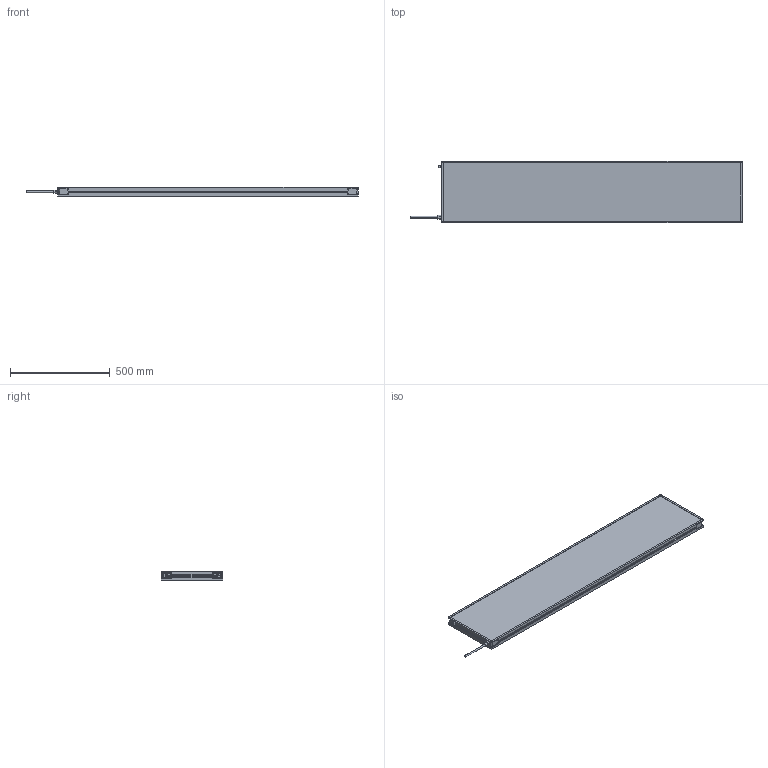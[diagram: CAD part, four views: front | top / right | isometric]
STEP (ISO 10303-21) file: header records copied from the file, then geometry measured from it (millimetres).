
FILE_DESCRIPTION (( 'STEP AP214' ), '1' );
FILE_NAME ('MBACK-xxxx-xxx-M1A2_CLIENT300x1500.STEP', '2022-04-01T11:32:43', ( '' ), ( '' ), 'SwSTEP 2.0', 'SolidWorks 2020', '' );
FILE_SCHEMA (( 'AUTOMOTIVE_DESIGN' ));
Length unit declared in the file: millimetre
Products named in the file (1): MBACK-xxxx-xxx-M1A2_CLIENT300x1500
Bounding box: 1667.4 x 308 x 45.5 mm (x, y, z)
Volume: 19306421.3 mm3; surface area: 1176125.4 mm2
Topology: 1 solids, 1 shells, 470 faces, 1210 edges, 804 vertices
Faces by surface type: plane 265, cylinder 117, bspline 80, cone 8
Entity records: 18046 total; most frequent: CARTESIAN_POINT 6837, ORIENTED_EDGE 2420, DIRECTION 2082, EDGE_CURVE 1210, VERTEX_POINT 804, LINE 800, VECTOR 800, AXIS2_PLACEMENT_3D 641
